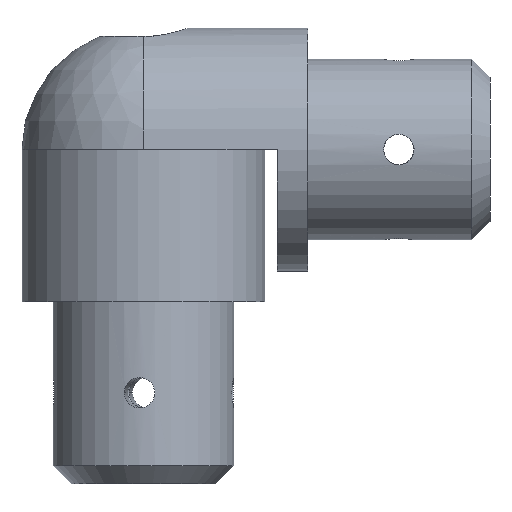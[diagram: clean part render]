
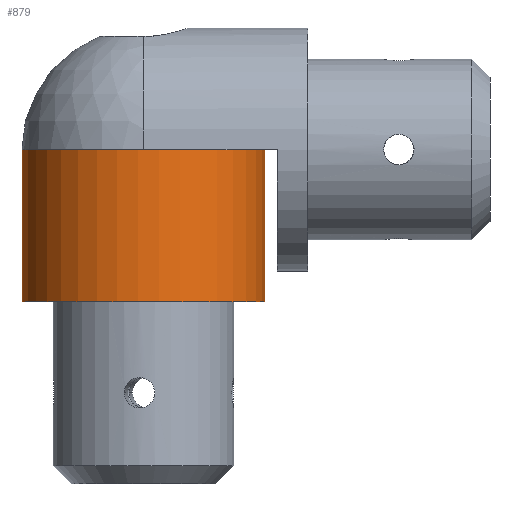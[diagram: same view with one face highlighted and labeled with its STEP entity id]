
A CAD part, left-side view. The second image highlights one B-rep face of the part: STEP entity #879.
In plain terms, the highlighted cylindrical face has radius 20 mm (diameter 40 mm), a partial arc.
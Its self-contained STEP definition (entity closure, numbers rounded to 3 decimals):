
#190 = CARTESIAN_POINT ( 'NONE',  ( 0., 0., 0. ) ) ;
#281 = EDGE_CURVE ( 'NONE', #2140, #1626, #1328, .T. ) ;
#350 = EDGE_CURVE ( 'NONE', #2140, #2651, #2810, .T. ) ;
#607 = CARTESIAN_POINT ( 'NONE',  ( -30., 0., -20. ) ) ;
#660 = DIRECTION ( 'NONE',  ( -1., 0., 0. ) ) ;
#709 = AXIS2_PLACEMENT_3D ( 'NONE', #2062, #660, #2430 ) ;
#792 = VECTOR ( 'NONE', #1692, 1000. ) ;
#837 = ORIENTED_EDGE ( 'NONE', *, *, #281, .F. ) ;
#879 = ADVANCED_FACE ( 'NONE', ( #1681 ), #2421, .T. ) ;
#904 = DIRECTION ( 'NONE',  ( 0., 0., 1. ) ) ;
#1019 = ORIENTED_EDGE ( 'NONE', *, *, #350, .T. ) ;
#1131 = LINE ( 'NONE', #1260, #792 ) ;
#1260 = CARTESIAN_POINT ( 'NONE',  ( -30., 0., 20. ) ) ;
#1328 = LINE ( 'NONE', #607, #2266 ) ;
#1332 = CARTESIAN_POINT ( 'NONE',  ( 25., 0., 0. ) ) ;
#1469 = DIRECTION ( 'NONE',  ( 0., 0., 1. ) ) ;
#1545 = DIRECTION ( 'NONE',  ( -1., 0., 0. ) ) ;
#1626 = VERTEX_POINT ( 'NONE', #2504 ) ;
#1671 = CARTESIAN_POINT ( 'NONE',  ( 0., 0., 20. ) ) ;
#1681 = FACE_OUTER_BOUND ( 'NONE', #1949, .T. ) ;
#1691 = ORIENTED_EDGE ( 'NONE', *, *, #2757, .T. ) ;
#1692 = DIRECTION ( 'NONE',  ( -1., 0., 0. ) ) ;
#1922 = VERTEX_POINT ( 'NONE', #1671 ) ;
#1934 = EDGE_CURVE ( 'NONE', #1626, #1922, #2739, .T. ) ;
#1949 = EDGE_LOOP ( 'NONE', ( #837, #1019, #1691, #2724 ) ) ;
#2062 = CARTESIAN_POINT ( 'NONE',  ( -30., 0., 0. ) ) ;
#2083 = CARTESIAN_POINT ( 'NONE',  ( 25., 0., 20. ) ) ;
#2128 = DIRECTION ( 'NONE',  ( -1., 0., 0. ) ) ;
#2140 = VERTEX_POINT ( 'NONE', #2457 ) ;
#2266 = VECTOR ( 'NONE', #2128, 1000. ) ;
#2421 = CYLINDRICAL_SURFACE ( 'NONE', #709, 20. ) ;
#2430 = DIRECTION ( 'NONE',  ( 0., 0., 1. ) ) ;
#2457 = CARTESIAN_POINT ( 'NONE',  ( 25., 0., -20. ) ) ;
#2504 = CARTESIAN_POINT ( 'NONE',  ( 0., 0., -20. ) ) ;
#2651 = VERTEX_POINT ( 'NONE', #2083 ) ;
#2658 = AXIS2_PLACEMENT_3D ( 'NONE', #1332, #1545, #904 ) ;
#2724 = ORIENTED_EDGE ( 'NONE', *, *, #1934, .F. ) ;
#2739 = CIRCLE ( 'NONE', #2789, 20. ) ;
#2757 = EDGE_CURVE ( 'NONE', #2651, #1922, #1131, .T. ) ;
#2789 = AXIS2_PLACEMENT_3D ( 'NONE', #190, #2790, #1469 ) ;
#2790 = DIRECTION ( 'NONE',  ( -1., 0., 0. ) ) ;
#2810 = CIRCLE ( 'NONE', #2658, 20. ) ;
